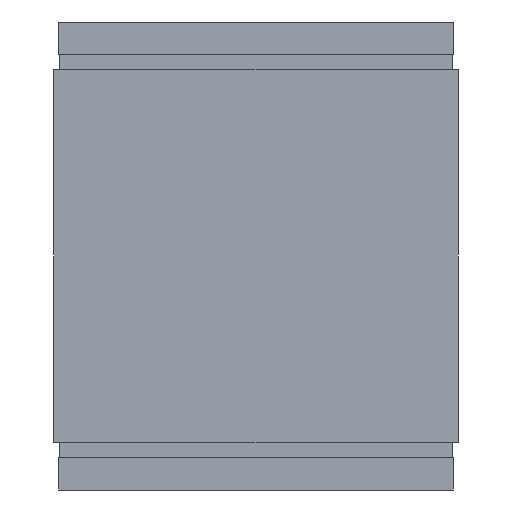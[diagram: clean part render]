
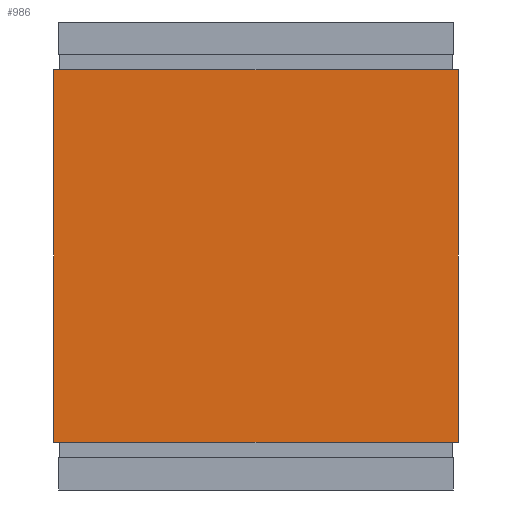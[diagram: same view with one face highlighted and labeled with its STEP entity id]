
A CAD part, front view. The second image highlights one B-rep face of the part: STEP entity #986.
In plain terms, the highlighted planar face has unit normal (0, -1, 0).
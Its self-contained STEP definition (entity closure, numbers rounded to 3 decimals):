
#481=DIRECTION('',(1.,0.,0.));
#482=VECTOR('',#481,540.84);
#483=CARTESIAN_POINT('',(-270.42,-37.977,-559.46));
#484=LINE('',#483,#482);
#509=DIRECTION('',(0.,0.,1.));
#510=VECTOR('',#509,497.05);
#511=CARTESIAN_POINT('',(-270.42,-37.977,-559.46));
#512=LINE('',#511,#510);
#516=DIRECTION('',(-1.,0.,0.));
#517=VECTOR('',#516,540.84);
#518=CARTESIAN_POINT('',(270.42,-37.977,-62.41));
#519=LINE('',#518,#517);
#530=DIRECTION('',(0.,0.,1.));
#531=VECTOR('',#530,497.05);
#532=CARTESIAN_POINT('',(270.42,-37.977,-559.46));
#533=LINE('',#532,#531);
#552=CARTESIAN_POINT('',(-270.42,-37.977,-559.46));
#554=VERTEX_POINT('',#552);
#555=CARTESIAN_POINT('',(-270.42,-37.977,-62.41));
#556=VERTEX_POINT('',#555);
#584=CARTESIAN_POINT('',(270.42,-37.977,-559.46));
#586=VERTEX_POINT('',#584);
#587=CARTESIAN_POINT('',(270.42,-37.977,-62.41));
#588=VERTEX_POINT('',#587);
#975=CARTESIAN_POINT('',(-268.83,-37.977,-559.46));
#976=DIRECTION('',(0.,-1.,0.));
#977=DIRECTION('',(0.,0.,1.));
#978=AXIS2_PLACEMENT_3D('',#975,#976,#977);
#979=PLANE('',#978);
#980=ORIENTED_EDGE('',*,*,#955,.F.);
#981=ORIENTED_EDGE('',*,*,#968,.F.);
#982=ORIENTED_EDGE('',*,*,#922,.F.);
#983=ORIENTED_EDGE('',*,*,#939,.T.);
#984=EDGE_LOOP('',(#980,#981,#982,#983));
#985=FACE_OUTER_BOUND('',#984,.F.);
#922=EDGE_CURVE('',#554,#586,#484,.T.);
#939=EDGE_CURVE('',#554,#556,#512,.T.);
#955=EDGE_CURVE('',#588,#556,#519,.T.);
#968=EDGE_CURVE('',#586,#588,#533,.T.);
#986=ADVANCED_FACE('',(#985),#979,.T.);
